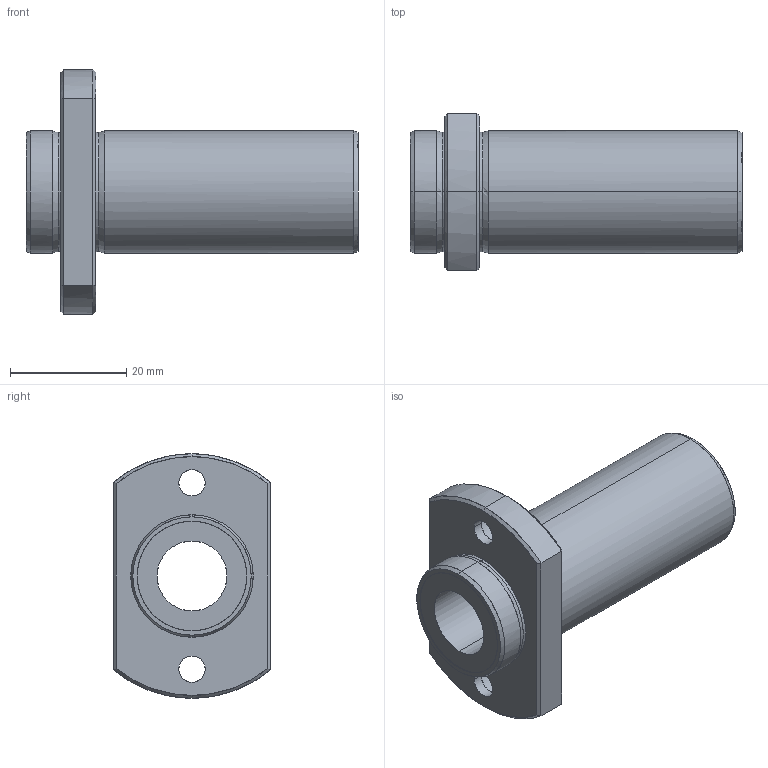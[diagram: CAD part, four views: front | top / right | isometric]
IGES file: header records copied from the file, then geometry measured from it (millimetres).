
Global section: file name: No Iges File Name specified; native system: AutoDesk Inventor R10; preprocessor: AutoDesk Inventor Iges Exporter R10; author: No Author specified; organization: No Organization specified; date: 20101209.173839; units: millimetre
Bounding box: 57 x 27 x 42 mm (x, y, z)
Surface area: 8255.6 mm2 (no closed solid volume)
Topology: 0 solids, 0 shells, 56 faces, 336 edges, 336 vertices
Faces by surface type: bspline 56
